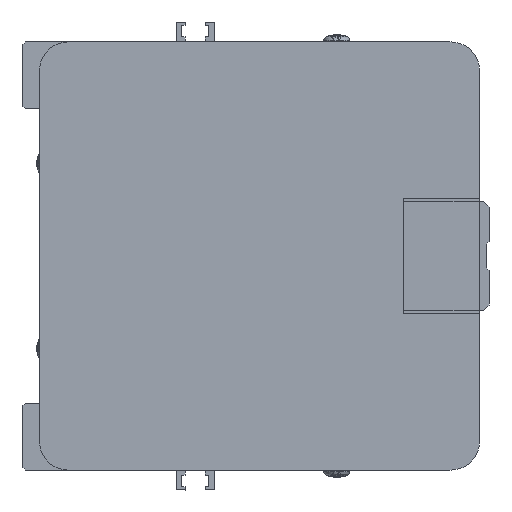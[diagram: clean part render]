
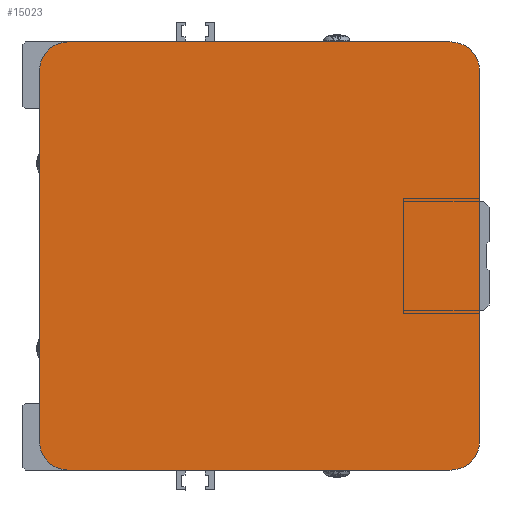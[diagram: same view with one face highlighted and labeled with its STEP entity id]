
A CAD part, left-side view. The second image highlights one B-rep face of the part: STEP entity #15023.
In plain terms, the highlighted planar face has unit normal (-1, 0, 0) as drawn and (0, 0, -1) by its records, which use the part's own axes.
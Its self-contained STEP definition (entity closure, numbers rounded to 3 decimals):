
#1183=CIRCLE('',#16015,6.);
#1185=CIRCLE('',#16020,6.);
#1186=CIRCLE('',#16026,6.);
#1187=CIRCLE('',#16028,6.);
#2086=FACE_OUTER_BOUND('',#2976,.T.);
#2976=EDGE_LOOP('',(#10502,#10503,#10504,#10505,#10506,#10507,#10508,#10509));
#4113=LINE('',#21526,#5358);
#4131=LINE('',#21565,#5376);
#4135=LINE('',#21577,#5380);
#4137=LINE('',#21584,#5382);
#5358=VECTOR('',#17595,78.);
#5376=VECTOR('',#17629,80.5);
#5380=VECTOR('',#17643,80.5);
#5382=VECTOR('',#17651,78.);
#6596=VERTEX_POINT('',#21520);
#6597=VERTEX_POINT('',#21524);
#6609=VERTEX_POINT('',#21562);
#6610=VERTEX_POINT('',#21564);
#6612=VERTEX_POINT('',#21573);
#6613=VERTEX_POINT('',#21575);
#6614=VERTEX_POINT('',#21579);
#6615=VERTEX_POINT('',#21583);
#8132=EDGE_CURVE('',#6597,#6596,#4113,.T.);
#8152=EDGE_CURVE('',#6609,#6610,#4131,.T.);
#8154=EDGE_CURVE('',#6610,#6597,#1183,.T.);
#8158=EDGE_CURVE('',#6613,#6612,#4135,.T.);
#8159=EDGE_CURVE('',#6612,#6614,#1185,.T.);
#8161=EDGE_CURVE('',#6614,#6615,#4137,.T.);
#8177=EDGE_CURVE('',#6615,#6609,#1186,.T.);
#8178=EDGE_CURVE('',#6596,#6613,#1187,.T.);
#10502=ORIENTED_EDGE('',*,*,#8159,.F.);
#10503=ORIENTED_EDGE('',*,*,#8158,.F.);
#10504=ORIENTED_EDGE('',*,*,#8178,.F.);
#10505=ORIENTED_EDGE('',*,*,#8132,.F.);
#10506=ORIENTED_EDGE('',*,*,#8154,.F.);
#10507=ORIENTED_EDGE('',*,*,#8152,.F.);
#10508=ORIENTED_EDGE('',*,*,#8177,.F.);
#10509=ORIENTED_EDGE('',*,*,#8161,.F.);
#14500=PLANE('',#16039);
#15023=ADVANCED_FACE('',(#2086),#14500,.T.);
#16015=AXIS2_PLACEMENT_3D('',#21568,#17633,#17634);
#16020=AXIS2_PLACEMENT_3D('',#21580,#17646,#17647);
#16026=AXIS2_PLACEMENT_3D('',#21612,#17675,#17676);
#16028=AXIS2_PLACEMENT_3D('',#21614,#17679,#17680);
#16039=AXIS2_PLACEMENT_3D('',#21633,#17706,#17707);
#17595=DIRECTION('',(1.,0.,0.));
#17629=DIRECTION('',(0.,-1.,0.));
#17633=DIRECTION('center_axis',(0.,0.,
1.));
#17634=DIRECTION('ref_axis',(-1.,0.,0.));
#17643=DIRECTION('',(0.,1.,0.));
#17646=DIRECTION('center_axis',(0.,0.,
1.));
#17647=DIRECTION('ref_axis',(1.,0.,0.));
#17651=DIRECTION('',(-1.,0.,0.));
#17675=DIRECTION('center_axis',(0.,0.,
1.));
#17676=DIRECTION('ref_axis',(0.,1.,0.));
#17679=DIRECTION('center_axis',(0.,0.,
1.));
#17680=DIRECTION('ref_axis',(0.,-1.,0.));
#17706=DIRECTION('center_axis',(0.,0.,
-1.));
#17707=DIRECTION('ref_axis',(0.545,-0.839,0.));
#21520=CARTESIAN_POINT('',(88.204,2.,-536.));
#21524=CARTESIAN_POINT('',(10.204,2.,-536.));
#21526=CARTESIAN_POINT('',(10.204,2.,-536.));
#21562=CARTESIAN_POINT('',(4.204,88.5,-536.));
#21564=CARTESIAN_POINT('',(4.204,8.,-536.));
#21565=CARTESIAN_POINT('',(4.204,88.5,-536.));
#21568=CARTESIAN_POINT('Origin',(10.204,8.,-536.));
#21573=CARTESIAN_POINT('',(94.204,88.5,-536.));
#21575=CARTESIAN_POINT('',(94.204,8.,-536.));
#21577=CARTESIAN_POINT('',(94.204,8.,-536.));
#21579=CARTESIAN_POINT('',(88.204,94.5,-536.));
#21580=CARTESIAN_POINT('Origin',(88.204,88.5,-536.));
#21583=CARTESIAN_POINT('',(10.204,94.5,-536.));
#21584=CARTESIAN_POINT('',(88.204,94.5,-536.));
#21612=CARTESIAN_POINT('Origin',(10.204,88.5,-536.));
#21614=CARTESIAN_POINT('Origin',(88.204,8.,-536.));
#21633=CARTESIAN_POINT('Origin',(49.204,26.,-536.));
